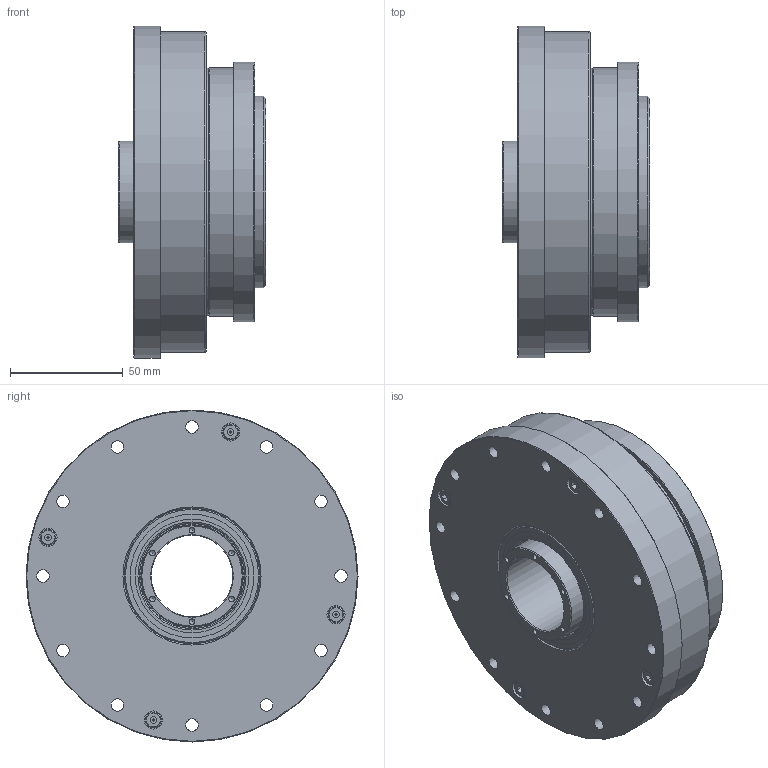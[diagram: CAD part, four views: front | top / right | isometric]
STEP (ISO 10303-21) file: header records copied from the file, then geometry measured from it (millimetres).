
FILE_DESCRIPTION(/* description */ (''),/* implementation_level */ '2;1');
FILE_NAME(/* name */ '40006039oer000_00.stp',/* time_stamp */ '2024-10-11T08:58:15+02:00',/* author */ (''),/* organization */ (''),/* preprocessor_version */ 'ST-DEVELOPER v19.4',/* originating_system */ 'SIEMENS PLM Software NX2212.9120',/* authorisation */ '');
FILE_SCHEMA (('AUTOMOTIVE_DESIGN { 1 0 10303 214 3 1 1 1 }'));
Length unit declared in the file: millimetre
Products named in the file (1): 40006039oer000_00_objects
Bounding box: 65.5 x 147 x 147 mm (x, y, z)
Volume: 563197 mm3; surface area: 343567.1 mm2
Topology: 100 solids, 102 shells, 891 faces, 2108 edges, 1373 vertices
Faces by surface type: cylinder 319, plane 254, cone 175, sphere 62, torus 60, bspline 21
Full cylindrical faces by diameter (mm): 2.5 x6, 3.4 x8, 4 x8, 4.3 x16, 4.5 x16, 5.5 x68, 7 x8, 7.2 x12, 8 x8, 36 x1, 43.52 x1, 44.2 x2, 45 x5, 46.72 x1, 46.864 x1, 47.5 x2, 47.8 x2, 48 x2, 49 x2, 49.1 x4, 49.18 x1, 50.336 x2, 51.694 x1, 52.4 x4, 53.5 x2, 53.9 x2, 54.06 x1, 54.08 x1, 54.5 x2, 54.772 x2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
Entity records: 25343 total; most frequent: CARTESIAN_POINT 7321, DIRECTION 3668, ORIENTED_EDGE 2472, AXIS2_PLACEMENT_3D 1733, EDGE_LOOP 1627, FACE_BOUND 1524, EDGE_CURVE 1236, VERTEX_POINT 1147
